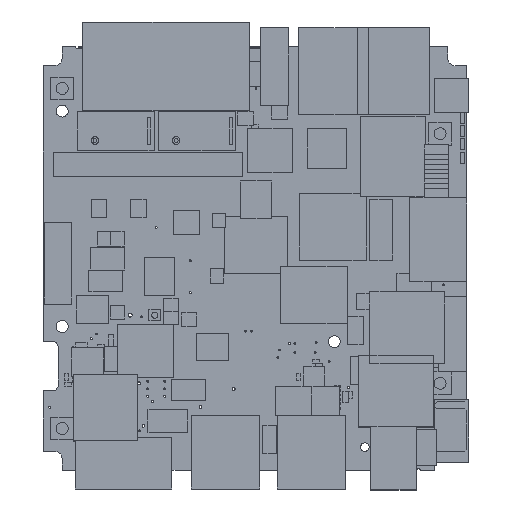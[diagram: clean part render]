
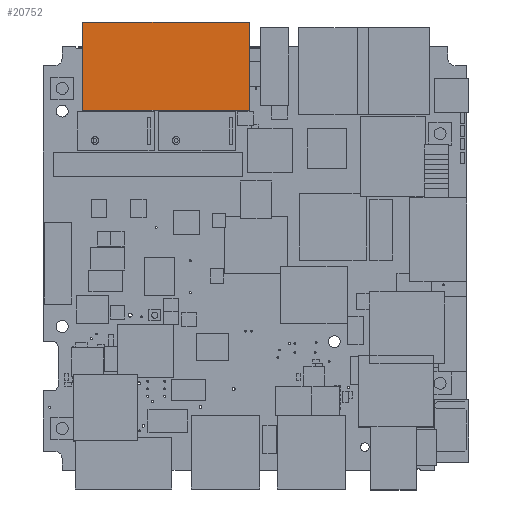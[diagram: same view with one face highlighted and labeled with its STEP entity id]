
A CAD part, top view. The second image highlights one B-rep face of the part: STEP entity #20752.
In plain terms, the highlighted planar face has unit normal (0, 0, 1).
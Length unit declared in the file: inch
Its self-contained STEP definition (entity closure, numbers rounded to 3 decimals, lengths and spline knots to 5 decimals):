
#598 = EDGE_CURVE ( 'NONE', #27919, #27802, #9467, .T. ) ;
#913 = ORIENTED_EDGE ( 'NONE', *, *, #598, .T. ) ;
#1480 = CARTESIAN_POINT ( 'NONE',  ( 1.08268, 3.77953, 0.96024 ) ) ;
#2442 = DIRECTION ( 'NONE',  ( -1., 0., 0. ) ) ;
#2652 = LINE ( 'NONE', #17984, #23188 ) ;
#5369 = ORIENTED_EDGE ( 'NONE', *, *, #12149, .T. ) ;
#5945 = ORIENTED_EDGE ( 'NONE', *, *, #18700, .T. ) ;
#9106 = AXIS2_PLACEMENT_3D ( 'NONE', #1480, #12203, #25655 ) ;
#9467 = LINE ( 'NONE', #12271, #21420 ) ;
#10842 = DIRECTION ( 'NONE',  ( 0., 1., 0. ) ) ;
#10911 = CARTESIAN_POINT ( 'NONE',  ( 0.21555, 3.31496, 0.96024 ) ) ;
#11298 = VECTOR ( 'NONE', #2442, 39.37008 ) ;
#12149 = EDGE_CURVE ( 'NONE', #27802, #12374, #23844, .T. ) ;
#12203 = DIRECTION ( 'NONE',  ( 0., 0., 1. ) ) ;
#12271 = CARTESIAN_POINT ( 'NONE',  ( 0.21555, 3.31496, 0.96024 ) ) ;
#12374 = VERTEX_POINT ( 'NONE', #22785 ) ;
#13288 = EDGE_LOOP ( 'NONE', ( #5369, #18382, #5945, #913 ) ) ;
#13682 = EDGE_CURVE ( 'NONE', #12374, #18166, #24572, .T. ) ;
#14040 = DIRECTION ( 'NONE',  ( 1., 0., 0. ) ) ;
#15272 = CARTESIAN_POINT ( 'NONE',  ( 1.9498, 3.31496, 0.96024 ) ) ;
#16207 = DIRECTION ( 'NONE',  ( 0., -1., 0. ) ) ;
#16777 = PLANE ( 'NONE',  #9106 ) ;
#17984 = CARTESIAN_POINT ( 'NONE',  ( 0.21555, 4.23327, 0.96024 ) ) ;
#18166 = VERTEX_POINT ( 'NONE', #22788 ) ;
#18382 = ORIENTED_EDGE ( 'NONE', *, *, #13682, .T. ) ;
#18490 = CARTESIAN_POINT ( 'NONE',  ( 1.9498, 4.23327, 0.96024 ) ) ;
#18700 = EDGE_CURVE ( 'NONE', #18166, #27919, #2652, .T. ) ;
#19161 = CARTESIAN_POINT ( 'NONE',  ( 1.9498, 3.31496, 0.96024 ) ) ;
#19457 = FACE_OUTER_BOUND ( 'NONE', #13288, .T. ) ;
#20752 = ADVANCED_FACE ( 'NONE', ( #19457 ), #16777, .T. ) ;
#21420 = VECTOR ( 'NONE', #14040, 39.37008 ) ;
#22785 = CARTESIAN_POINT ( 'NONE',  ( 1.9498, 4.23327, 0.96024 ) ) ;
#22788 = CARTESIAN_POINT ( 'NONE',  ( 0.21555, 4.23327, 0.96024 ) ) ;
#23188 = VECTOR ( 'NONE', #16207, 39.37008 ) ;
#23844 = LINE ( 'NONE', #15272, #28811 ) ;
#24572 = LINE ( 'NONE', #18490, #11298 ) ;
#25655 = DIRECTION ( 'NONE',  ( -1., 0., 0. ) ) ;
#27802 = VERTEX_POINT ( 'NONE', #19161 ) ;
#27919 = VERTEX_POINT ( 'NONE', #10911 ) ;
#28811 = VECTOR ( 'NONE', #10842, 39.37008 ) ;
